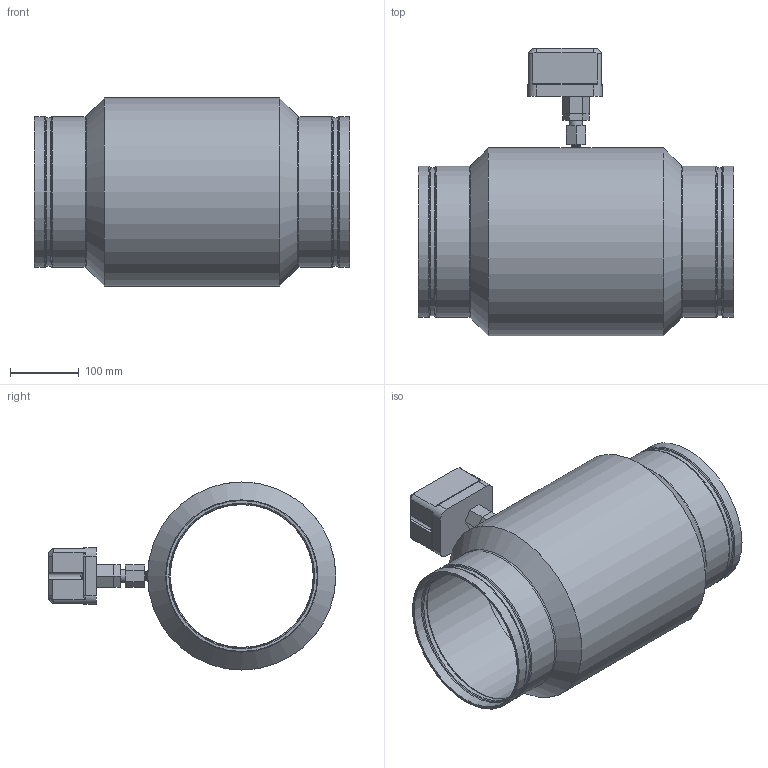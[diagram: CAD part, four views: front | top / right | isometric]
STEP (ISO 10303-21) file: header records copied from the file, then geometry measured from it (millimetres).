
FILE_DESCRIPTION(/* description */ (''),/* implementation_level */ '2;1');
FILE_NAME(/* name */ 'C:\Users\myoung\Box\ECS CAD Library\ECS Products\ILD-X Inline Detector\Export\ILD-8B10.stp',/* time_stamp */ '2020-05-06T11:23:38-05:00',/* author */ ('myoung'),/* organization */ (''),/* preprocessor_version */ 'ST-DEVELOPER v18',/* originating_system */ 'Autodesk Inventor 2020',/* authorisation */ '');
FILE_SCHEMA (('AUTOMOTIVE_DESIGN { 1 0 10303 214 3 1 1 }'));
Length unit declared in the file: inch
Products named in the file (1): ILD-8B10
Bounding box: 457.2 x 417.46 x 273.05 mm (x, y, z)
Volume: 5227457.3 mm3; surface area: 1113948.4 mm2
Topology: 3 solids, 3 shells, 176 faces, 471 edges, 312 vertices
Faces by surface type: plane 64, cone 44, cylinder 34, torus 22, bspline 12
Full cylindrical faces by diameter (mm): 1.524 x2, 7.112 x1, 7.62 x2, 10.719 x1, 12.359 x1, 19.05 x1, 207.34 x2, 211.557 x3, 213.589 x1, 214.859 x2, 219.075 x6, 242.824 x1, 273.05 x1
Entity records: 16292 total; most frequent: CARTESIAN_POINT 11710, ORIENTED_EDGE 942, DIRECTION 887, EDGE_CURVE 471, AXIS2_PLACEMENT_3D 357, VERTEX_POINT 312, EDGE_LOOP 193, CIRCLE 187
